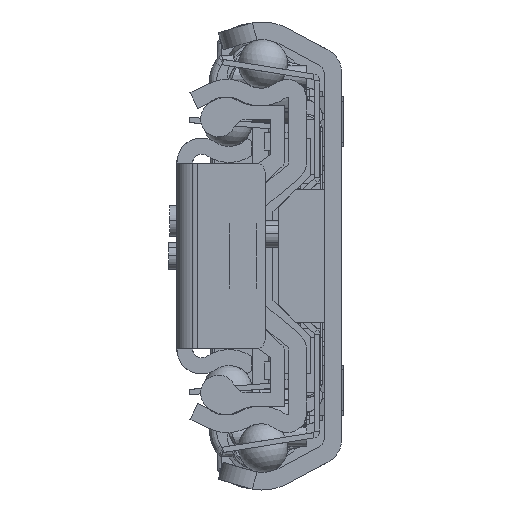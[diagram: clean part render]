
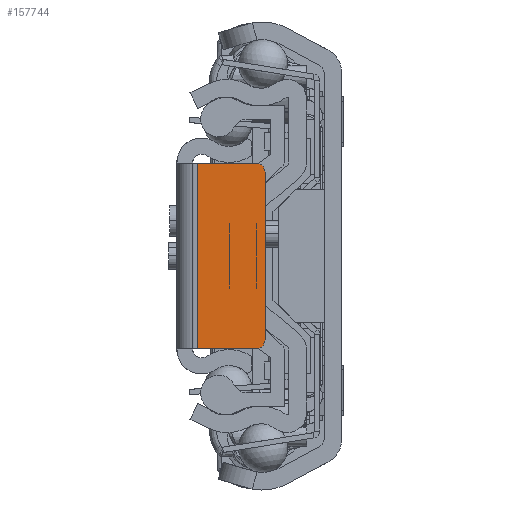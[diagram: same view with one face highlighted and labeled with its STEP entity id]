
A CAD part, left-side view. The second image highlights one B-rep face of the part: STEP entity #157744.
In plain terms, the highlighted planar face has unit normal (-1, 0, 0).
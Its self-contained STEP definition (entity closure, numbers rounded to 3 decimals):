
#153058=DIRECTION('',(0.,-1.,0.));
#153059=VECTOR('',#153058,6.7);
#153060=CARTESIAN_POINT('',(0.,-2.3,10.5));
#153061=LINE('',#153060,#153059);
#153919=DIRECTION('',(0.,-1.,0.));
#153920=VECTOR('',#153919,6.7);
#153921=CARTESIAN_POINT('',(0.,-2.3,-10.5));
#153922=LINE('',#153921,#153920);
#153923=CARTESIAN_POINT('',(0.,-9.,9.5));
#153924=DIRECTION('',(-1.,0.,0.));
#153925=DIRECTION('',(0.,-1.,0.));
#153926=AXIS2_PLACEMENT_3D('',#153923,#153924,#153925);
#153928=CARTESIAN_POINT('',(0.,-9.,-9.5));
#153929=DIRECTION('',(-1.,0.,0.));
#153930=DIRECTION('',(0.,0.,-1.));
#153931=AXIS2_PLACEMENT_3D('',#153928,#153929,#153930);
#153933=DIRECTION('',(0.,0.,1.));
#153934=VECTOR('',#153933,21.);
#153935=CARTESIAN_POINT('',(0.,-2.3,-10.5));
#153936=LINE('',#153935,#153934);
#153945=DIRECTION('',(0.,0.,1.));
#153946=VECTOR('',#153945,19.);
#153947=CARTESIAN_POINT('',(0.,-10.,-9.5));
#153948=LINE('',#153947,#153946);
#156268=CARTESIAN_POINT('',(0.,-2.3,-10.5));
#156269=CARTESIAN_POINT('',(0.,-2.3,10.5));
#156270=VERTEX_POINT('',#156268);
#156271=VERTEX_POINT('',#156269);
#156293=CARTESIAN_POINT('',(0.,-10.,9.5));
#156294=VERTEX_POINT('',#156293);
#156295=CARTESIAN_POINT('',(0.,-9.,10.5));
#156296=VERTEX_POINT('',#156295);
#156297=CARTESIAN_POINT('',(0.,-9.,-10.5));
#156298=CARTESIAN_POINT('',(0.,-10.,-9.5));
#156299=VERTEX_POINT('',#156297);
#156300=VERTEX_POINT('',#156298);
#157729=CARTESIAN_POINT('',(0.,-2.3,-10.5));
#157730=DIRECTION('',(-1.,0.,0.));
#157731=DIRECTION('',(0.,-1.,0.));
#157732=AXIS2_PLACEMENT_3D('',#157729,#157730,#157731);
#157733=PLANE('',#157732);
#157734=ORIENTED_EDGE('',*,*,#157234,.F.);
#157736=ORIENTED_EDGE('',*,*,#157735,.F.);
#157737=ORIENTED_EDGE('',*,*,#157720,.F.);
#157738=ORIENTED_EDGE('',*,*,#157710,.F.);
#157740=ORIENTED_EDGE('',*,*,#157739,.T.);
#157741=ORIENTED_EDGE('',*,*,#157211,.T.);
#157742=EDGE_LOOP('',(#157734,#157736,#157737,#157738,#157740,#157741));
#157743=FACE_OUTER_BOUND('',#157742,.F.);
#153927=CIRCLE('',#153926,1.);
#153932=CIRCLE('',#153931,1.);
#157211=EDGE_CURVE('',#156271,#156296,#153061,.T.);
#157234=EDGE_CURVE('',#156294,#156296,#153927,.T.);
#157710=EDGE_CURVE('',#156270,#156299,#153922,.T.);
#157720=EDGE_CURVE('',#156299,#156300,#153932,.T.);
#157735=EDGE_CURVE('',#156300,#156294,#153948,.T.);
#157739=EDGE_CURVE('',#156270,#156271,#153936,.T.);
#157744=ADVANCED_FACE('',(#157743),#157733,.T.);
